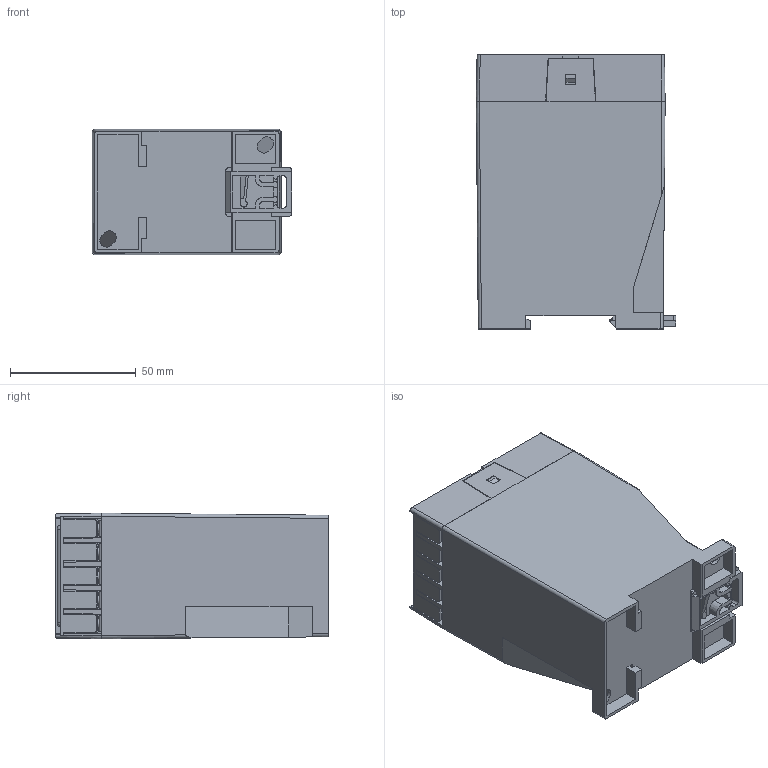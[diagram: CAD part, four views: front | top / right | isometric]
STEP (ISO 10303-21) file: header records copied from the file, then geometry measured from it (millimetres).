
FILE_DESCRIPTION (( 'STEP AP203' ), '1' );
FILE_NAME ('RT-110.STEP', '2021-10-08T10:38:37', ( '' ), ( '' ), 'SwSTEP 2.0', 'SolidWorks 2021', '' );
FILE_SCHEMA (( 'CONFIG_CONTROL_DESIGN' ));
Length unit declared in the file: millimetre
Products named in the file (9): RT-122-P-1; RT-112-P-2; A-70_opsiyon2; RT-112-P-3; RT-112-P-4; A-70_screw; A-610-0-0-M-0; RT-115_rail_lock; RT-110
Assembly tree (36 placements, depth 2):
  RT-110
    RT-122-P-1
    RT-112-P-2
    A-70_opsiyon2  x10
    A-70_screw  x10
    A-610-0-0-M-0  x10
    RT-112-P-3
    RT-112-P-4  x2
    RT-115_rail_lock
Bounding box: 79.42 x 109.05 x 50 mm (x, y, z)
Volume: 71032.2 mm3; surface area: 95847.6 mm2
Topology: 36 solids, 36 shells, 1941 faces, 5135 edges, 3305 vertices
Faces by surface type: plane 1343, cylinder 398, cone 126, torus 40, bspline 26, sphere 8
Entity records: 33861 total; most frequent: CARTESIAN_POINT 7187, ORIENTED_EDGE 5476, DIRECTION 4800, EDGE_CURVE 2738, VECTOR 2174, LINE 2174, VERTEX_POINT 1797, AXIS2_PLACEMENT_3D 1313
